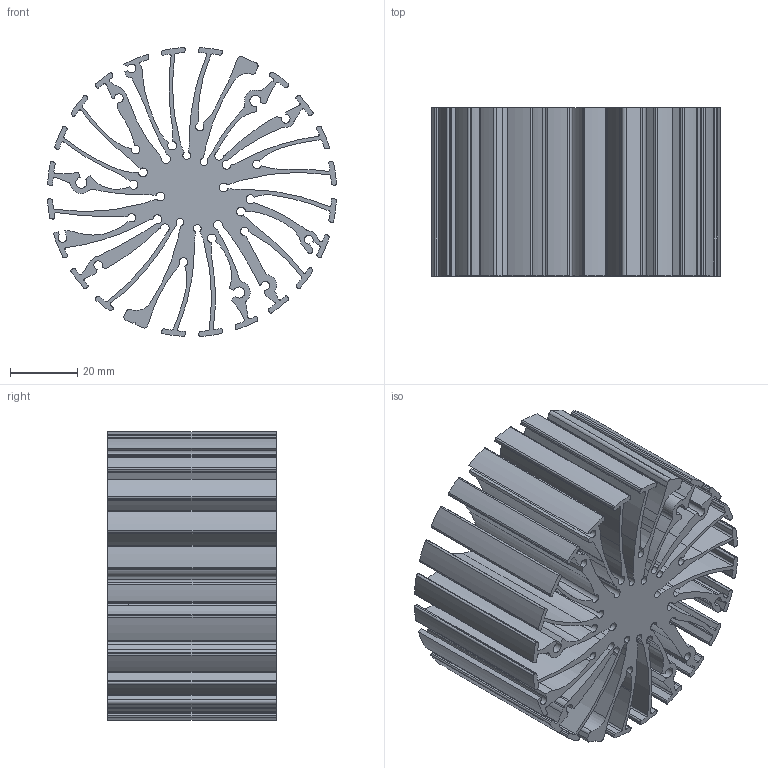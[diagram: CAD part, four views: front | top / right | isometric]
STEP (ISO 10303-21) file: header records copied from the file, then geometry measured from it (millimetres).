
FILE_DESCRIPTION (( 'STEP AP203' ), '1' );
FILE_NAME ('XSA-301.STEP', '2014-10-03T01:03:07', ( '' ), ( '' ), 'SwSTEP 2.0', 'SolidWorks 2014', '' );
FILE_SCHEMA (( 'CONFIG_CONTROL_DESIGN' ));
Length unit declared in the file: millimetre
Products named in the file (1): XSA-301
Bounding box: 85.85 x 50 x 85.85 mm (x, y, z)
Volume: 105074.3 mm3; surface area: 95521.9 mm2
Topology: 1 solids, 1 shells, 505 faces, 1509 edges, 1006 vertices
Faces by surface type: cylinder 455, plane 47, cone 3
Entity records: 17616 total; most frequent: DIRECTION 3423, CARTESIAN_POINT 3042, ORIENTED_EDGE 3018, EDGE_CURVE 1509, AXIS2_PLACEMENT_3D 1415, VERTEX_POINT 1006, CIRCLE 909, VECTOR 593
